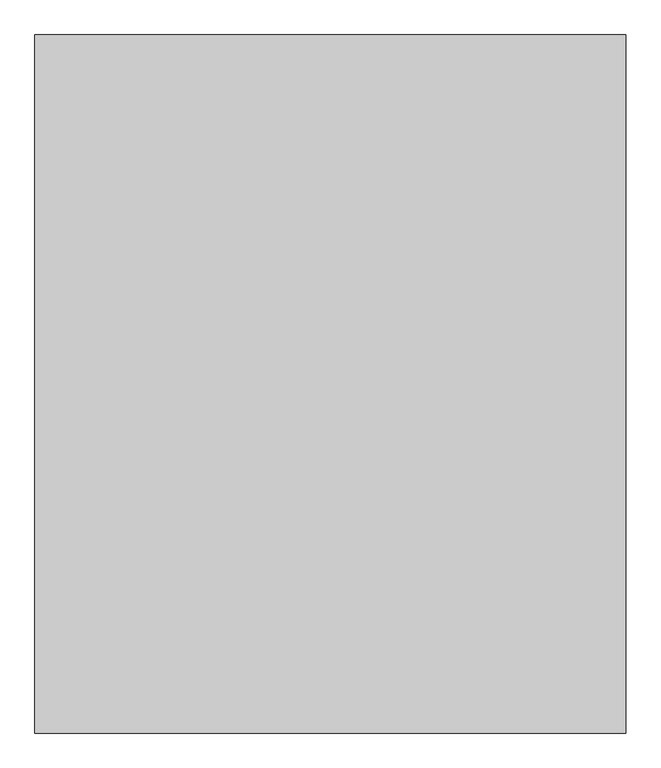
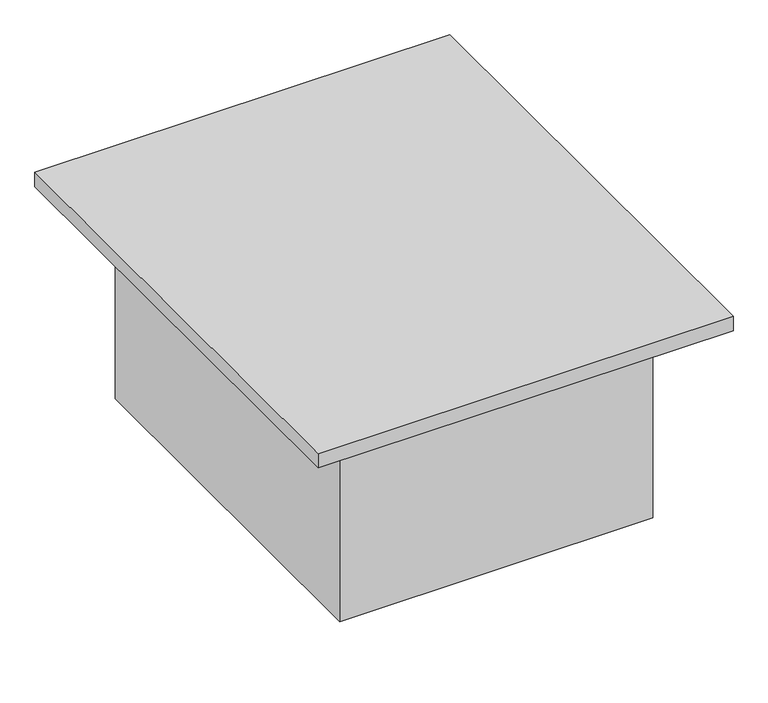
"""IFC4 building model written with IfcOpenShell, lengths in millimetres: air terminal geometry, AIR_FB_Roof cowl DK-2 sunken_SMA : DK-2-sunken."""

from ifc_helpers import new_model, si_unit, origin, place, context, project, spatial, faceted_brep, source, transform, mapped, element, save


def air_terminal_31453509(model_context):
    return source(origin(), model_context, "Body", "Brep", [
        faceted_brep([(550.0, 650.0, 200.0), (-550.0, 650.0, 200.0), (-550.0, -650.0, 200.0), (550.0, -650.0, 200.0), (550.0, 650.0, 160.0), (550.0, -650.0, 160.0), (-550.0, -650.0, 160.0), (-550.0, 650.0, 160.0), (415.0, -515.0, 160.0), (415.0, 515.0, 160.0), (-415.0, 515.0, 160.0), (-415.0, -515.0, 160.0), (412.0, 512.0, 160.0), (412.0, -512.0, 160.0), (-412.0, -512.0, 160.0), (-412.0, 512.0, 160.0), (300.0, 400.0, 160.0), (-300.0, 400.0, 160.0), (-300.0, -400.0, 160.0), (300.0, -400.0, 160.0), (300.0, -400.0, 193.2029442), (300.0, 400.0, 193.2029442), (-300.0, -400.0, 193.2029442), (-300.0, 400.0, 193.2029442), (300.0, 400.0, -397.8), (300.0, 400.0, -400.0), (300.0, -400.0, -400.0), (300.0, -400.0, -397.8), (412.0, 512.0, -397.8), (412.0, -512.0, -397.8), (415.0, -515.0, -400.0), (415.0, 515.0, -400.0), (-300.0, -400.0, -400.0), (-300.0, -400.0, -397.8), (-412.0, -512.0, -397.8), (-415.0, -515.0, -400.0), (-300.0, 400.0, -400.0), (-300.0, 400.0, -397.8), (-412.0, 512.0, -397.8), (-415.0, 515.0, -400.0)], [[[0, 1, 2, 3]], [[4, 5, 6, 7], [8, 9, 10, 11]], [[12, 13, 14, 15], [16, 17, 18, 19]], [[1, 0, 4, 7]], [[2, 1, 7, 6]], [[3, 2, 6, 5]], [[0, 3, 5, 4]], [[16, 19, 20, 21]], [[19, 18, 22, 20]], [[18, 17, 23, 22]], [[17, 16, 21, 23]], [[24, 25, 26, 27]], [[28, 29, 13, 12]], [[30, 31, 9, 8]], [[27, 26, 32, 33]], [[29, 34, 14, 13]], [[35, 30, 8, 11]], [[33, 32, 36, 37]], [[34, 38, 15, 14]], [[39, 35, 11, 10]], [[31, 30, 35, 39], [26, 25, 36, 32]], [[25, 24, 37, 36]], [[29, 28, 38, 34], [24, 27, 33, 37]], [[38, 28, 12, 15]], [[31, 39, 10, 9]], [[21, 20, 22, 23]]]),
    ])


if __name__ == "__main__":
    model = new_model("IFC4")
    model_context = context("Model", 3, world=origin())
    ifc_project = project(units=[si_unit("LENGTHUNIT", "METRE", prefix="MILLI")], contexts=[model_context])
    site = spatial("IfcSite", under=ifc_project)
    building = spatial("IfcBuilding", under=site)
    placement = place(None, origin())
    air_terminal_shape = air_terminal_31453509(model_context)
    element("IfcAirTerminal", 1, ObjectType="AIR_FB_Roof cowl DK-2 sunken_SMA : DK-2-sunken", at=placement, inside=building, context=model_context, shape_type="MappedRepresentation", body=[
        mapped(air_terminal_shape, transform((0.0, 0.0, 0.0), x_axis=(1.0, 0.0, 0.0), y_axis=(0.0, 1.0, 0.0), z_axis=(0.0, 0.0, 1.0))),
    ])
    save(model, "model.ifc")
